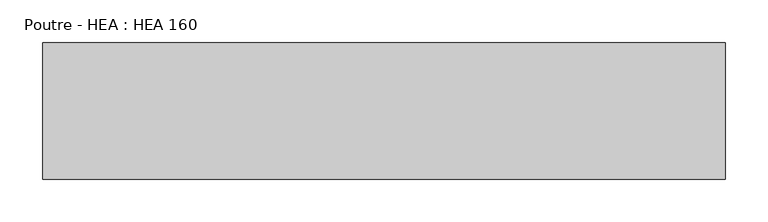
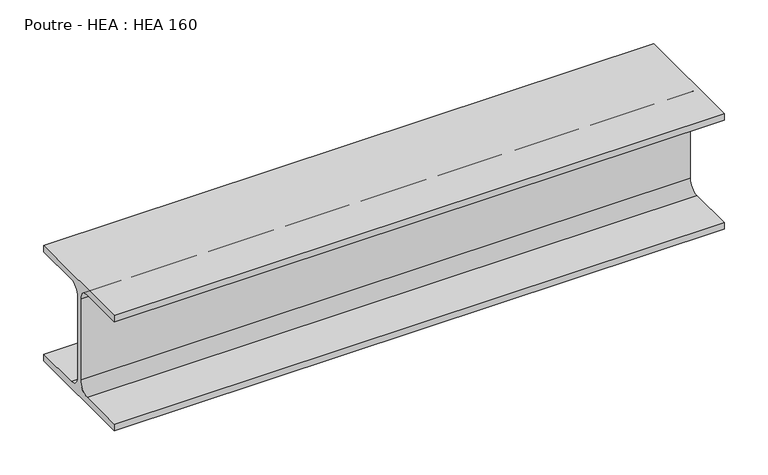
"""IFC4 building model written with IfcOpenShell, lengths in millimetres: beam geometry, Poutre - HEA : HEA 160."""

from ifc_helpers import new_model, si_unit, point, frame, frame_2d, origin, place, context, project, spatial, polyline, circle_curve, trimmed, segment, composite_curve, outline, extrude, source, transform, mapped, element, save


def poutre_hea_hea_160_e29c9bb7(model_context):
    return source(origin(), model_context, "Body", "SweptSolid", [
        extrude(outline(composite_curve([segment(polyline([(80.0, -71.0), (80.0, -80.0), (-80.0, -80.0), (-80.0, -71.0), (-18.0, -71.0)]), True, "CONTINUOUS"), segment(trimmed(circle_curve(frame_2d((-18.0, -56.0)), 15.0), [point((-18.0, -71.0))], [point((-3.0, -56.0))], True, "CARTESIAN"), True, "CONTINUOUS"), segment(polyline([(-3.0, -56.0), (-3.0, 56.0)]), True, "CONTINUOUS"), segment(trimmed(circle_curve(frame_2d((-18.0, 56.0)), 15.0), [point((-3.0, 56.0))], [point((-18.0, 71.0))], True, "CARTESIAN"), True, "CONTINUOUS"), segment(polyline([(-18.0, 71.0), (-80.0, 71.0), (-80.0, 80.0), (80.0, 80.0), (80.0, 71.0), (18.0, 71.0)]), True, "CONTINUOUS"), segment(trimmed(circle_curve(frame_2d((18.0, 56.0)), 15.0), [point((18.0, 71.0))], [point((3.0, 56.0))], True, "CARTESIAN"), True, "CONTINUOUS"), segment(polyline([(3.0, 56.0), (3.0, -56.0)]), True, "CONTINUOUS"), segment(trimmed(circle_curve(frame_2d((18.0, -56.0)), 15.0), [point((3.0, -56.0))], [point((18.0, -71.0))], True, "CARTESIAN"), True, "CONTINUOUS"), segment(polyline([(18.0, -71.0), (80.0, -71.0)]), True, "CONTINUOUS")], self_intersect=False)), frame((-400.0, 0.0, 0.0), z_axis=(1.0, 0.0, 0.0), x_axis=(0.0, 1.0, 0.0)), (0.0, 0.0, 1.0), 800.0),
    ])


if __name__ == "__main__":
    model = new_model("IFC4")
    model_context = context("Model", 3, world=origin())
    ifc_project = project(units=[si_unit("LENGTHUNIT", "METRE", prefix="MILLI")], contexts=[model_context])
    site = spatial("IfcSite", under=ifc_project)
    building = spatial("IfcBuilding", under=site)
    placement = place(None, origin())
    poutre_hea_hea_160_shape = poutre_hea_hea_160_e29c9bb7(model_context)
    element("IfcBeam", 1, ObjectType="Poutre - HEA : HEA 160", at=placement, inside=building, context=model_context, shape_type="MappedRepresentation", body=[
        mapped(poutre_hea_hea_160_shape, transform((0.0, 0.0, 0.0), x_axis=(1.0, 0.0, 0.0), y_axis=(0.0, 1.0, 0.0), z_axis=(0.0, 0.0, 1.0))),
    ])
    save(model, "model.ifc")
